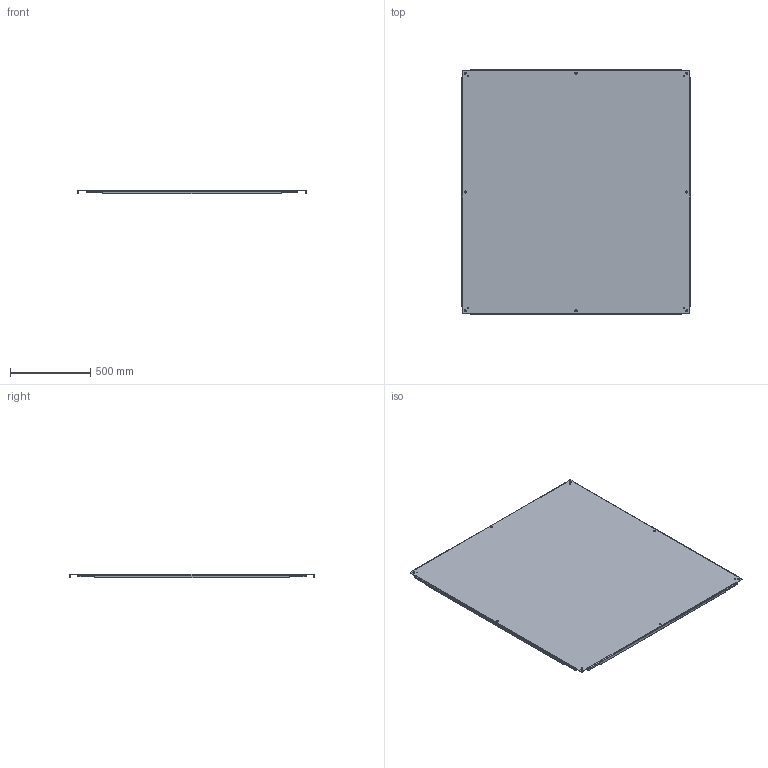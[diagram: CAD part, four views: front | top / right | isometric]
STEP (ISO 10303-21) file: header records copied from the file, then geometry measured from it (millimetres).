
FILE_DESCRIPTION((''),'2;1');
FILE_NAME('MODEL-075_ASM','2024-05-02T14:59:56',('ChadS'),('SAGINAW CONTROL & ENGINEERING'),'CREO PARAMETRIC BY PTC INC, 2021284','CREO PARAMETRIC BY PTC INC, 2021284','');
FILE_SCHEMA(('AUTOMOTIVE_DESIGN { 1 0 10303 214 1 1 1 1 }'));
Length unit declared in the file: inch
Products named in the file (3): MODEL-075-SUBPNL; 118582; MODEL-075_ASM
Assembly tree (2 placements, depth 2):
  MODEL-075_ASM
    MODEL-075-SUBPNL
    118582
Bounding box: 1420.81 x 1522.41 x 22.23 mm (x, y, z)
Volume: 7140936.8 mm3; surface area: 4518484.2 mm2
Topology: 1 solids, 1 shells, 122 faces, 328 edges, 208 vertices
Faces by surface type: cylinder 52, plane 46, bspline 24
Entity records: 7050 total; most frequent: CARTESIAN_POINT 1331, ORIENTED_EDGE 656, DIRECTION 638, PRESENTATION_STYLE_ASSIGNMENT 451, STYLED_ITEM 451, CURVE_STYLE 328, EDGE_CURVE 328, AXIS2_PLACEMENT_3D 223
